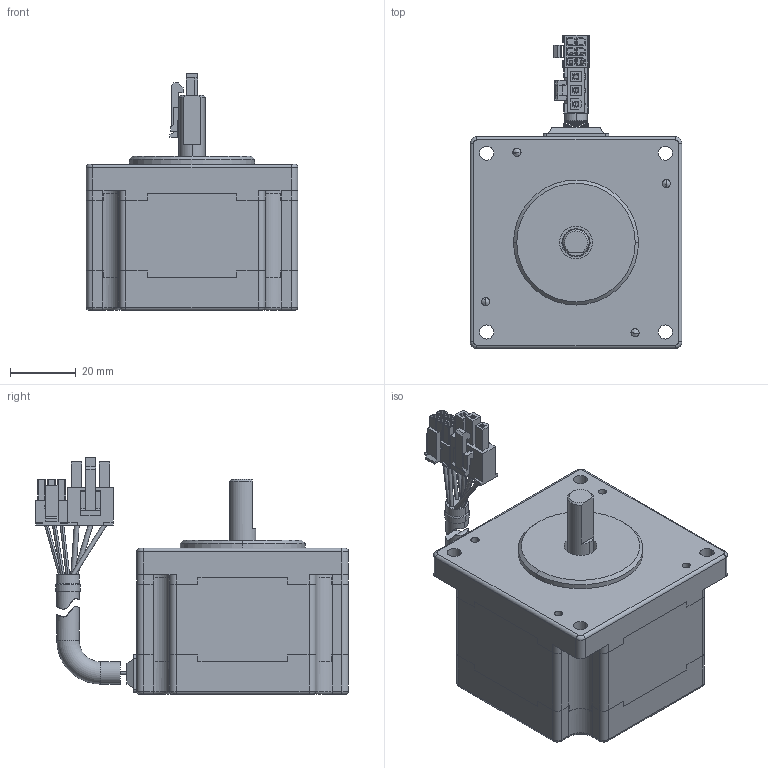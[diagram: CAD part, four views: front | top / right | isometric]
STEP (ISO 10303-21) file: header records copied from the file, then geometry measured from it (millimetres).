
FILE_DESCRIPTION (( 'STEP AP203' ), '1' );
FILE_NAME ('65BLB43L2.STEP', '2018-05-31T08:15:06', ( 'User' ), ( 'China' ), 'SwSTEP 2.0', 'SolidWorks 2012', '' );
FILE_SCHEMA (( 'CONFIG_CONTROL_DESIGN' ));
Length unit declared in the file: millimetre
Products named in the file (1): 65BLB43L2
Bounding box: 64.5 x 95.35 x 72.1 mm (x, y, z)
Surface area: 26058.6 mm2 (no closed solid volume)
Topology: 0 solids, 27 shells, 566 faces, 1866 edges, 1291 vertices
Faces by surface type: plane 359, cylinder 130, bspline 34, torus 28, cone 15
Entity records: 20474 total; most frequent: CARTESIAN_POINT 4270, DIRECTION 3359, ORIENTED_EDGE 3034, EDGE_CURVE 1858, LINE 1351, VECTOR 1351, VERTEX_POINT 1291, AXIS2_PLACEMENT_3D 1004
